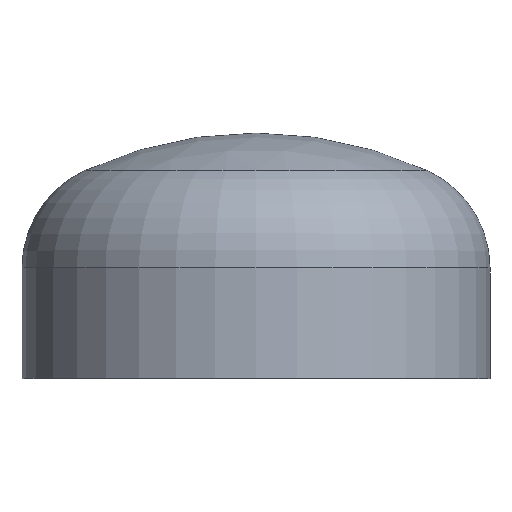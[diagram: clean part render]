
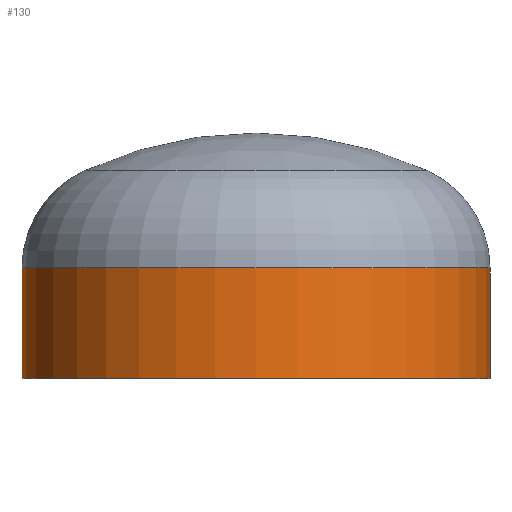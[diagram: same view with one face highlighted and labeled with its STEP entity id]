
A CAD part, top view. The second image highlights one B-rep face of the part: STEP entity #130.
In plain terms, the highlighted cylindrical face has radius 254 mm (diameter 508 mm), a partial arc.
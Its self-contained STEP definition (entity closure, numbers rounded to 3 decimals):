
#59 = VERTEX_POINT ( 'NONE', #242 ) ;
#63 = AXIS2_PLACEMENT_3D ( 'NONE', #330, #197, #179 ) ;
#72 = AXIS2_PLACEMENT_3D ( 'NONE', #188, #294, #290 ) ;
#73 = ORIENTED_EDGE ( 'NONE', *, *, #112, .F. ) ;
#74 = VERTEX_POINT ( 'NONE', #278 ) ;
#87 = DIRECTION ( 'NONE',  ( 0., -1., 0. ) ) ;
#95 = EDGE_CURVE ( 'NONE', #59, #106, #282, .T. ) ;
#106 = VERTEX_POINT ( 'NONE', #306 ) ;
#112 = EDGE_CURVE ( 'NONE', #106, #74, #148, .T. ) ;
#116 = ORIENTED_EDGE ( 'NONE', *, *, #345, .T. ) ;
#120 = EDGE_LOOP ( 'NONE', ( #235, #116, #73, #134 ) ) ;
#128 = VERTEX_POINT ( 'NONE', #207 ) ;
#130 = ADVANCED_FACE ( 'NONE', ( #395 ), #389, .T. ) ;
#134 = ORIENTED_EDGE ( 'NONE', *, *, #95, .F. ) ;
#139 = AXIS2_PLACEMENT_3D ( 'NONE', #255, #408, #269 ) ;
#148 = CIRCLE ( 'NONE', #72, 254. ) ;
#176 = LINE ( 'NONE', #313, #409 ) ;
#179 = DIRECTION ( 'NONE',  ( 1., 0., 0. ) ) ;
#188 = CARTESIAN_POINT ( 'NONE',  ( 0., 0., 0. ) ) ;
#197 = DIRECTION ( 'NONE',  ( 0., -1., 0. ) ) ;
#207 = CARTESIAN_POINT ( 'NONE',  ( -254., 120., 0. ) ) ;
#213 = DIRECTION ( 'NONE',  ( 0., -1., 0. ) ) ;
#233 = CARTESIAN_POINT ( 'NONE',  ( 254., 0., 0. ) ) ;
#235 = ORIENTED_EDGE ( 'NONE', *, *, #384, .T. ) ;
#242 = CARTESIAN_POINT ( 'NONE',  ( 254., 120., 0. ) ) ;
#255 = CARTESIAN_POINT ( 'NONE',  ( 0., 120., 0. ) ) ;
#269 = DIRECTION ( 'NONE',  ( 1., 0., 0. ) ) ;
#278 = CARTESIAN_POINT ( 'NONE',  ( -254., 0., 0. ) ) ;
#282 = LINE ( 'NONE', #233, #351 ) ;
#290 = DIRECTION ( 'NONE',  ( 1., 0., 0. ) ) ;
#294 = DIRECTION ( 'NONE',  ( 0., -1., 0. ) ) ;
#306 = CARTESIAN_POINT ( 'NONE',  ( 254., 0., 0. ) ) ;
#313 = CARTESIAN_POINT ( 'NONE',  ( -254., 0., 0. ) ) ;
#330 = CARTESIAN_POINT ( 'NONE',  ( 0., 0., 0. ) ) ;
#345 = EDGE_CURVE ( 'NONE', #128, #74, #176, .T. ) ;
#351 = VECTOR ( 'NONE', #213, 1000. ) ;
#384 = EDGE_CURVE ( 'NONE', #59, #128, #402, .T. ) ;
#389 = CYLINDRICAL_SURFACE ( 'NONE', #63, 254. ) ;
#395 = FACE_OUTER_BOUND ( 'NONE', #120, .T. ) ;
#402 = CIRCLE ( 'NONE', #139, 254. ) ;
#408 = DIRECTION ( 'NONE',  ( 0., -1., 0. ) ) ;
#409 = VECTOR ( 'NONE', #87, 1000. ) ;
